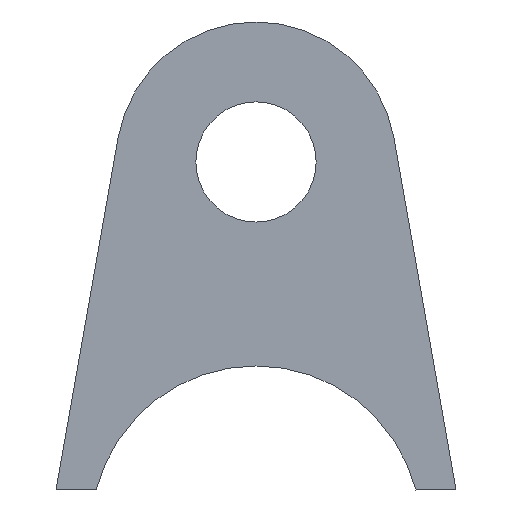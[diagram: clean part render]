
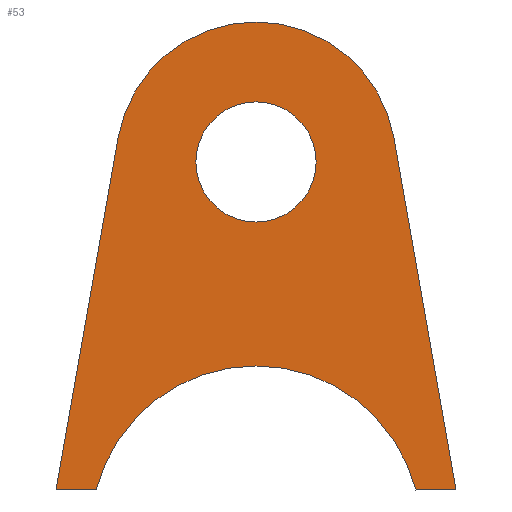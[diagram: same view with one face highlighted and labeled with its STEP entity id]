
A CAD part, left-side view. The second image highlights one B-rep face of the part: STEP entity #53.
In plain terms, the highlighted planar face has unit normal (-1, 0, 0).
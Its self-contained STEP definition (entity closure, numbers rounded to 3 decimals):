
#53=ADVANCED_FACE('',(#134,#136),#138,.F.);
#134=FACE_BOUND('',#135,.T.);
#135=EDGE_LOOP('',(#203,#204,#205,#206,#207,#208));
#136=FACE_BOUND('',#137,.T.);
#137=EDGE_LOOP('',(#209));
#138=PLANE('',#139);
#139=AXIS2_PLACEMENT_3D('',#140,#141,#142);
#140=CARTESIAN_POINT('',(0.,0.,0.));
#141=DIRECTION('',(1.,0.,0.));
#142=DIRECTION('',(0.,1.,0.));
#203=ORIENTED_EDGE('',*,*,#243,.F.);
#204=ORIENTED_EDGE('',*,*,#244,.F.);
#205=ORIENTED_EDGE('',*,*,#245,.F.);
#206=ORIENTED_EDGE('',*,*,#246,.F.);
#207=ORIENTED_EDGE('',*,*,#247,.F.);
#208=ORIENTED_EDGE('',*,*,#248,.F.);
#209=ORIENTED_EDGE('',*,*,#249,.T.);
#243=EDGE_CURVE('',#263,#264,#265,.T.);
#244=EDGE_CURVE('',#266,#263,#267,.T.);
#245=EDGE_CURVE('',#268,#266,#269,.T.);
#246=EDGE_CURVE('',#270,#268,#271,.T.);
#247=EDGE_CURVE('',#272,#270,#273,.T.);
#248=EDGE_CURVE('',#264,#272,#274,.T.);
#249=EDGE_CURVE('',#275,#275,#276,.T.);
#263=VERTEX_POINT('',#297);
#264=VERTEX_POINT('',#298);
#265=LINE('',#299,#300);
#266=VERTEX_POINT('',#302);
#267=CIRCLE('',#303,41.25);
#268=VERTEX_POINT('',#307);
#269=LINE('',#308,#309);
#270=VERTEX_POINT('',#311);
#271=LINE('',#312,#313);
#272=VERTEX_POINT('',#315);
#273=CIRCLE('',#316,35.);
#274=LINE('',#320,#321);
#275=VERTEX_POINT('',#323);
#276=CIRCLE('',#324,15.025);
#297=CARTESIAN_POINT('',(0.,39.958,10.243));
#298=CARTESIAN_POINT('',(0.,50.,10.243));
#299=CARTESIAN_POINT('',(0.,39.958,10.243));
#300=VECTOR('',#301,1.);
#301=DIRECTION('',(0.,1.,0.));
#302=CARTESIAN_POINT('',(0.,-39.958,10.243));
#303=AXIS2_PLACEMENT_3D('',#304,#305,#306);
#304=CARTESIAN_POINT('',(0.,0.,0.));
#305=DIRECTION('',(-1.,0.,0.));
#306=DIRECTION('',(0.,-0.969,0.248));
#307=CARTESIAN_POINT('',(0.,-50.,10.243));
#308=CARTESIAN_POINT('',(0.,-50.,10.243));
#309=VECTOR('',#310,1.);
#310=DIRECTION('',(0.,1.,0.));
#311=CARTESIAN_POINT('',(0.,-34.468,98.328));
#312=CARTESIAN_POINT('',(0.,-34.468,98.328));
#313=VECTOR('',#314,1.);
#314=DIRECTION('',(0.,-0.174,-0.985));
#315=CARTESIAN_POINT('',(0.,34.468,98.328));
#316=AXIS2_PLACEMENT_3D('',#317,#318,#319);
#317=CARTESIAN_POINT('',(0.,0.,92.25));
#318=DIRECTION('',(1.,0.,0.));
#319=DIRECTION('',(0.,0.985,0.174));
#320=CARTESIAN_POINT('',(0.,50.,10.243));
#321=VECTOR('',#322,1.);
#322=DIRECTION('',(0.,-0.174,0.985));
#323=CARTESIAN_POINT('',(0.,15.025,92.25));
#324=AXIS2_PLACEMENT_3D('',#325,#326,#327);
#325=CARTESIAN_POINT('',(0.,0.,92.25));
#326=DIRECTION('',(1.,0.,0.));
#327=DIRECTION('',(0.,1.,0.));
